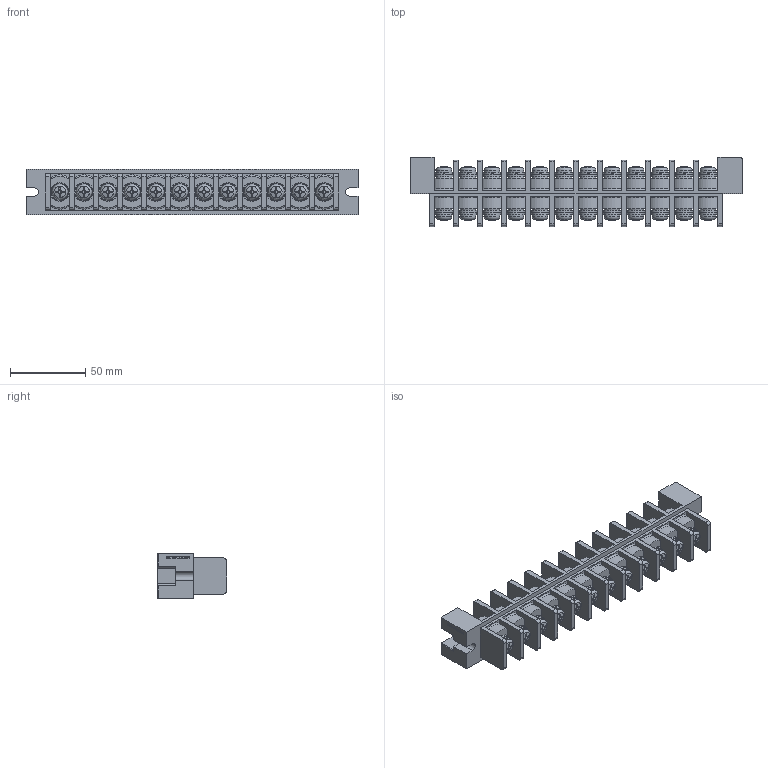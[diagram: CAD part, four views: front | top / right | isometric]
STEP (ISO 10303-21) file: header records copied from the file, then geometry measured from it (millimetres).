
FILE_DESCRIPTION(/* description */ ('Alibre Inc.'),/* implementation_level */ '2;1');
FILE_NAME(/* name */ 'export0',/* time_stamp */ '2016-01-14T19:25:52+09:00',/* author */ (''),/* organization */ (''),/* preprocessor_version */ 'ST-DEVELOPER v14',/* originating_system */ 'Alibre',/* authorisation */ '');
FILE_SCHEMA (('CONFIG_CONTROL_DESIGN'));
Length unit declared in the file: centimetre
Products named in the file (1): ID_1
Bounding box: 221 x 46 x 30 mm (x, y, z)
Volume: 141401.1 mm3; surface area: 61165.4 mm2
Topology: 1 solids, 37 shells, 1494 faces, 3804 edges, 2503 vertices
Faces by surface type: plane 838, cylinder 340, cone 168, torus 72, bspline 52, sphere 24
Full cylindrical faces by diameter (mm): 4.55 x2, 6 x36, 10.5 x48, 10.75 x24, 12.5 x24
Entity records: 45068 total; most frequent: CARTESIAN_POINT 11560, ORIENTED_EDGE 7002, DIRECTION 6095, EDGE_CURVE 3501, AXIS2_PLACEMENT_3D 2581, VERTEX_POINT 2430, EDGE_LOOP 1891, FACE_BOUND 1891
